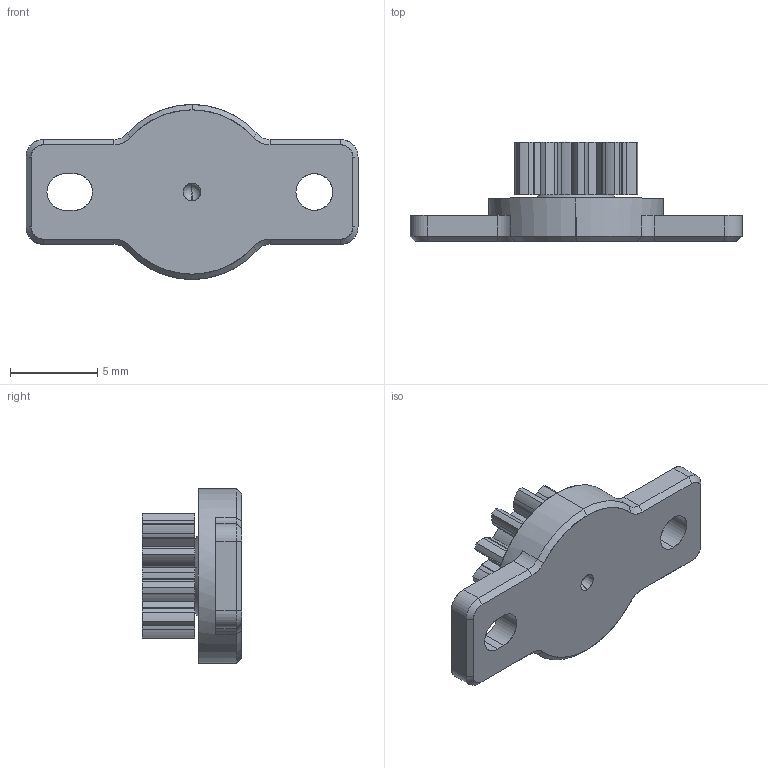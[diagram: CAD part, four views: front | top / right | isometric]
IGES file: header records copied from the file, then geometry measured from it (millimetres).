
Start section: SolidWorks IGES file using analytic representation for surfaces
Global section: file name: C:\3D-DATA\型式\R\【提出用】\IGS\FRT-E2(G1).IGS; native system: SolidWorks 2014; preprocessor: SolidWorks 2014; author: flgijutsu; date: 140516.165307; units: millimetre
Bounding box: 19 x 5.7 x 10 mm (x, y, z)
Surface area: 568.1 mm2 (no closed solid volume)
Topology: 0 solids, 0 shells, 202 faces, 1513 edges, 1511 vertices
Faces by surface type: revolution 135, bspline 67
